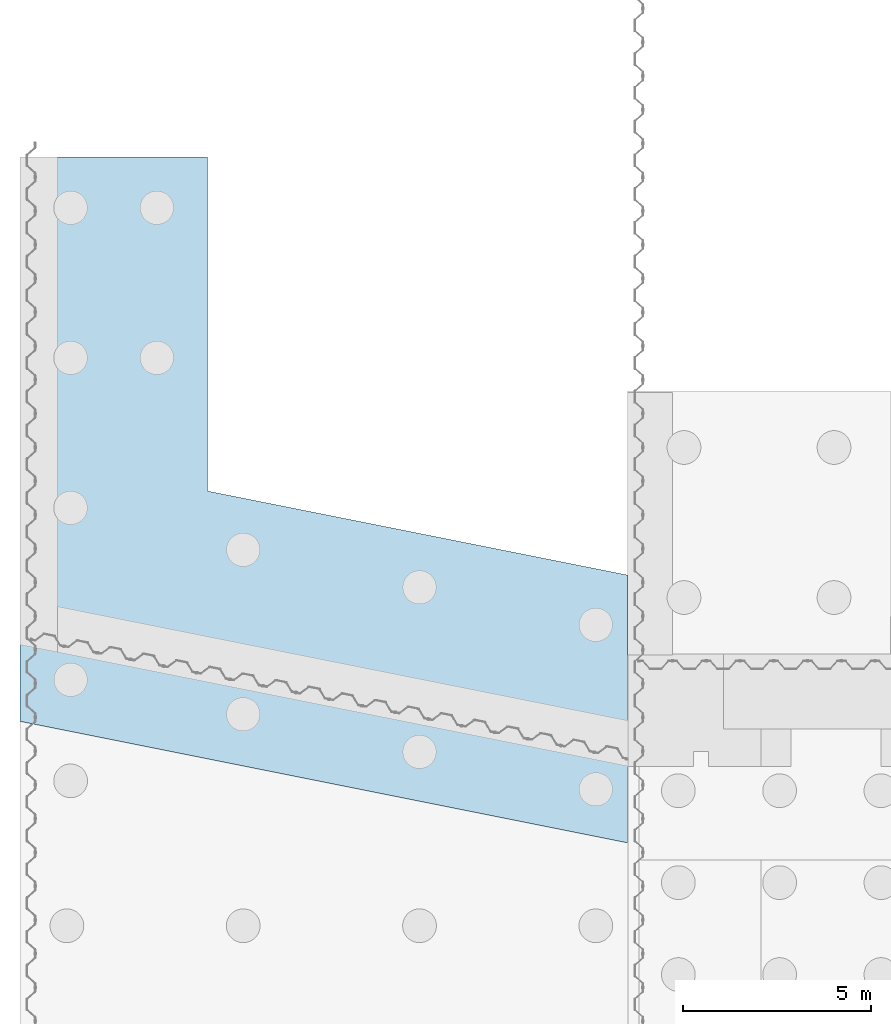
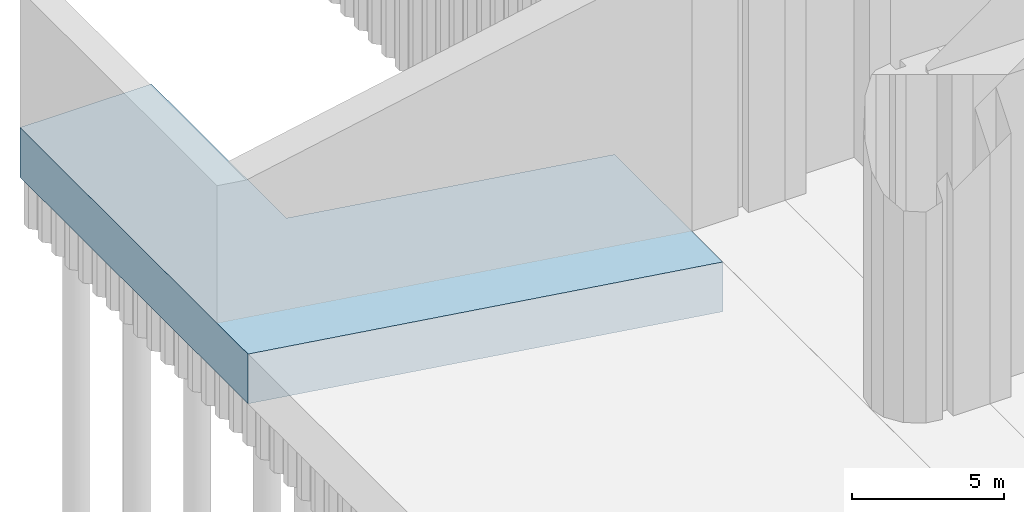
# One storey, part 5 of 9: 1 slab.
"""IFC2X3 building model written with IfcOpenShell, lengths in millimetres."""

from ifc_helpers import new_model, entity, si_unit, converted_unit, derived_unit, direction, frame, origin, place, context, subcontext, project, spatial, polyline, outline, extrude, material, type_object, element, save


model = new_model("IFC2X3")

# Units and contexts
model_context = context("Model", 3, precision=0.01, world=origin(), true_north=direction((6.12303176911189e-17, 1.0)))
body_context = subcontext(model_context, "Body", "Model", "MODEL_VIEW")
ifc_project = project(units=[si_unit("LENGTHUNIT", "METRE", prefix="MILLI"), si_unit("AREAUNIT", "SQUARE_METRE"), si_unit("VOLUMEUNIT", "CUBIC_METRE"), converted_unit("PLANEANGLEUNIT", "DEGREE", entity("IfcRatioMeasure", 0.0174532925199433), si_unit("PLANEANGLEUNIT", "RADIAN"), dimensions=[0, 0, 0, 0, 0, 0, 0]), si_unit("MASSUNIT", "GRAM", prefix="KILO"), derived_unit("MASSDENSITYUNIT", [(si_unit("MASSUNIT", "GRAM", prefix="KILO"), 1), (si_unit("LENGTHUNIT", "METRE"), -3)]), si_unit("TIMEUNIT", "SECOND"), si_unit("FREQUENCYUNIT", "HERTZ"), si_unit("THERMODYNAMICTEMPERATUREUNIT", "DEGREE_CELSIUS"), derived_unit("THERMALTRANSMITTANCEUNIT", [(si_unit("MASSUNIT", "GRAM", prefix="KILO"), 1), (si_unit("THERMODYNAMICTEMPERATUREUNIT", "KELVIN"), -1), (si_unit("TIMEUNIT", "SECOND"), -3)]), derived_unit("VOLUMETRICFLOWRATEUNIT", [(si_unit("LENGTHUNIT", "METRE"), 3), (si_unit("TIMEUNIT", "SECOND"), -1)]), si_unit("ELECTRICCURRENTUNIT", "AMPERE"), si_unit("ELECTRICVOLTAGEUNIT", "VOLT"), si_unit("POWERUNIT", "WATT"), si_unit("FORCEUNIT", "NEWTON", prefix="KILO"), si_unit("ILLUMINANCEUNIT", "LUX"), si_unit("LUMINOUSFLUXUNIT", "LUMEN"), si_unit("LUMINOUSINTENSITYUNIT", "CANDELA"), derived_unit("USERDEFINED", [(si_unit("MASSUNIT", "GRAM", prefix="KILO"), -1), (si_unit("LENGTHUNIT", "METRE"), -2), (si_unit("TIMEUNIT", "SECOND"), 3), (si_unit("LUMINOUSFLUXUNIT", "LUMEN"), 1)]), derived_unit("LINEARVELOCITYUNIT", [(si_unit("LENGTHUNIT", "METRE"), 1), (si_unit("TIMEUNIT", "SECOND"), -1)]), si_unit("PRESSUREUNIT", "PASCAL"), derived_unit("USERDEFINED", [(si_unit("LENGTHUNIT", "METRE"), -2), (si_unit("MASSUNIT", "GRAM", prefix="KILO"), 1), (si_unit("TIMEUNIT", "SECOND"), -2)])], contexts=[model_context])

# Site, building, storey
site_placement = place(None, origin())
site = spatial("IfcSite", under=ifc_project, at=site_placement, Name="Default", CompositionType="ELEMENT")
building_placement = place(site_placement, origin())
building = spatial("IfcBuilding", under=site, at=building_placement, CompositionType="ELEMENT")
storey_placement = place(building_placement, origin())
storey = spatial("IfcBuildingStorey", under=building, at=storey_placement, Name="設計GL", CompositionType="ELEMENT", Elevation=0.0)

# Slab
ifc_material = material(Name="コンクリート - 現場打ちコンクリート")
slab_type = type_object("IfcSlabType", Name="40601_Co_川表翼壁(上流)底版", PredefinedType="FLOOR", material=ifc_material)
slab_placement = place(storey_placement, origin())
element("IfcSlab", 1, at=slab_placement, inside=storey, type_object=slab_type, Name="40601_Co_川表翼壁(上流)底版:40601_Co_川表翼壁(上流)底版", ObjectType="40601_Co_川表翼壁(上流)底版:40601_Co_川表翼壁(上流)底版", PredefinedType="FLOOR", context=body_context, shape_type="SweptSolid", body=[
    extrude(outline(polyline([(-8893.52943061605, -7066.66666666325), (6146.07837482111, -7066.66666666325), (9386.07837482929, 9133.33333332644), (2247.45105579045, 9133.33333332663), (7.45105579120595, -2066.66666666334), (-8893.529430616, -2066.66666666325), (-8893.52943061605, -7066.66666666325)])), frame((-62246.0026462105, -42445.8373618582, 2210.0), z_axis=(0.0, 0.0, 1.0), x_axis=(0.0, -1.0, 0.0)), (0.0, 0.0, 1.0), 2000.0),
])

save(model, "model.ifc")
